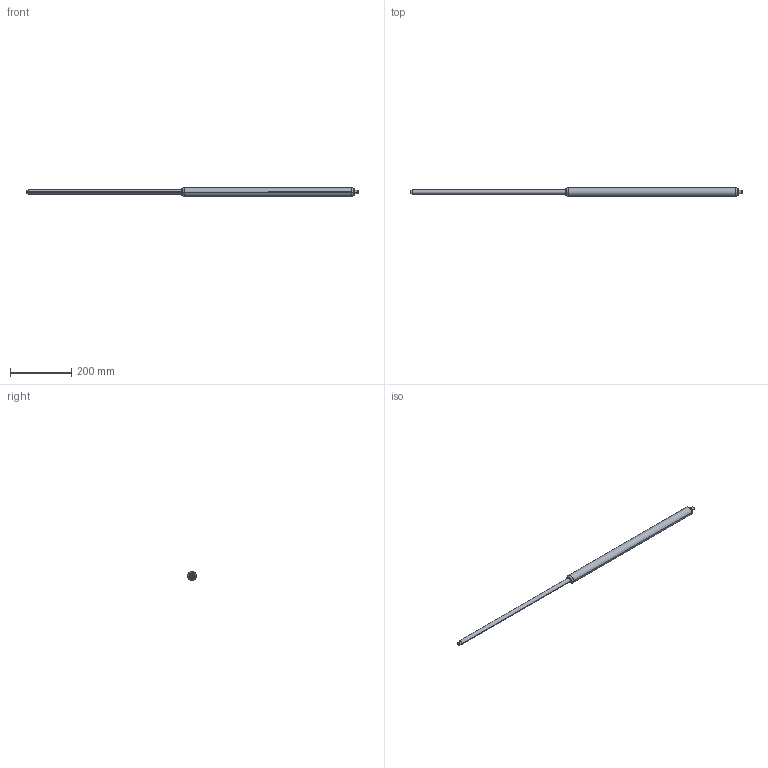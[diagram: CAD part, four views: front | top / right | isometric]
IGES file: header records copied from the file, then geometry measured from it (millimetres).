
Start section: SolidWorks IGES file using analytic representation for surfaces
Global section: file name: Z:\7-3D図面\01.図面\01.L\外形図\Ｇ／Ｓ\20170710(最新)\カタログ用\IGES\FGS-28-500-BB.IGS; native system: SolidWorks 2016; preprocessor: SolidWorks 2016; author: flgijutsu; date: 170710.171812; units: millimetre
Bounding box: 1084 x 28 x 28 mm (x, y, z)
Surface area: 73062 mm2 (no closed solid volume)
Topology: 0 solids, 0 shells, 29 faces, 352 edges, 352 vertices
Faces by surface type: revolution 20, bspline 9
